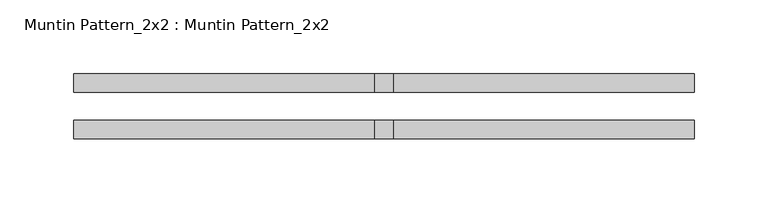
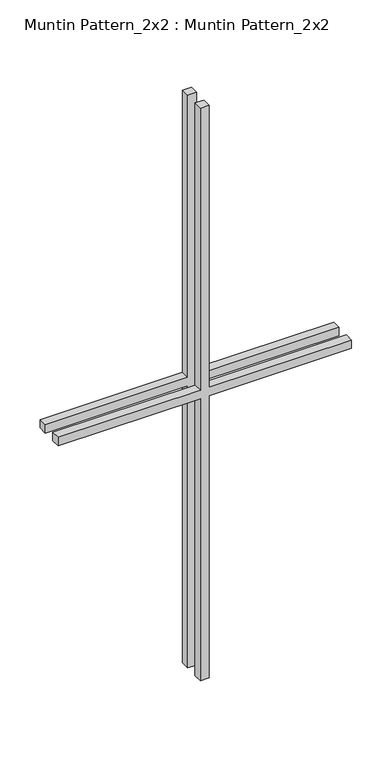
"""IFC4 building model written with IfcOpenShell, lengths in millimetres: proxy geometry, Muntin Pattern_2x2 : Muntin Pattern_2x2."""

from ifc_helpers import new_model, si_unit, frame, origin, place, context, project, spatial, polyline, outline, extrude, source, transform, mapped, element, save


def muntin_pattern_2x2_muntin_pattern_2x2_fa83fa09(model_context):
    return source(origin(), model_context, "Body", "SweptSolid", [
        extrude(outline(polyline([(441.325, -6.35), (441.325, -211.1375), (428.625, -211.1375), (428.625, -6.35), (0.0, -6.35), (0.0, 6.35), (428.625, 6.35), (428.625, 211.1375), (441.325, 211.1375), (441.325, 6.35), (869.95, 6.35), (869.95, -6.35), (441.325, -6.35)])), frame((0.0, -22.225, 0.0), z_axis=(0.0, 1.0, 0.0), x_axis=(0.0, 0.0, 1.0)), (0.0, 0.0, 1.0), 12.7),
        extrude(outline(polyline([(441.325, -6.35), (441.325, -211.1375), (428.625, -211.1375), (428.625, -6.35), (0.0, -6.35), (0.0, 6.35), (428.625, 6.35), (428.625, 211.1375), (441.325, 211.1375), (441.325, 6.35), (869.95, 6.35), (869.95, -6.35), (441.325, -6.35)])), frame((0.0, 9.525, 0.0), z_axis=(0.0, 1.0, 0.0), x_axis=(0.0, 0.0, 1.0)), (0.0, 0.0, 1.0), 12.7),
    ])


if __name__ == "__main__":
    model = new_model("IFC4")
    model_context = context("Model", 3, world=origin())
    ifc_project = project(units=[si_unit("LENGTHUNIT", "METRE", prefix="MILLI")], contexts=[model_context])
    site = spatial("IfcSite", under=ifc_project)
    building = spatial("IfcBuilding", under=site)
    placement = place(None, origin())
    muntin_pattern_2x2_muntin_pattern_2x2_shape = muntin_pattern_2x2_muntin_pattern_2x2_fa83fa09(model_context)
    element("IfcBuildingElementProxy", 1, Name="Muntin Pattern_2x2 : Muntin Pattern_2x2", ObjectType="Muntin Pattern_2x2 : Muntin Pattern_2x2", at=placement, inside=building, context=model_context, shape_type="MappedRepresentation", body=[
        mapped(muntin_pattern_2x2_muntin_pattern_2x2_shape, transform((0.0, 0.0, 0.0), x_axis=(1.0, 0.0, 0.0), y_axis=(0.0, 1.0, 0.0), z_axis=(0.0, 0.0, 1.0))),
    ])
    save(model, "model.ifc")
